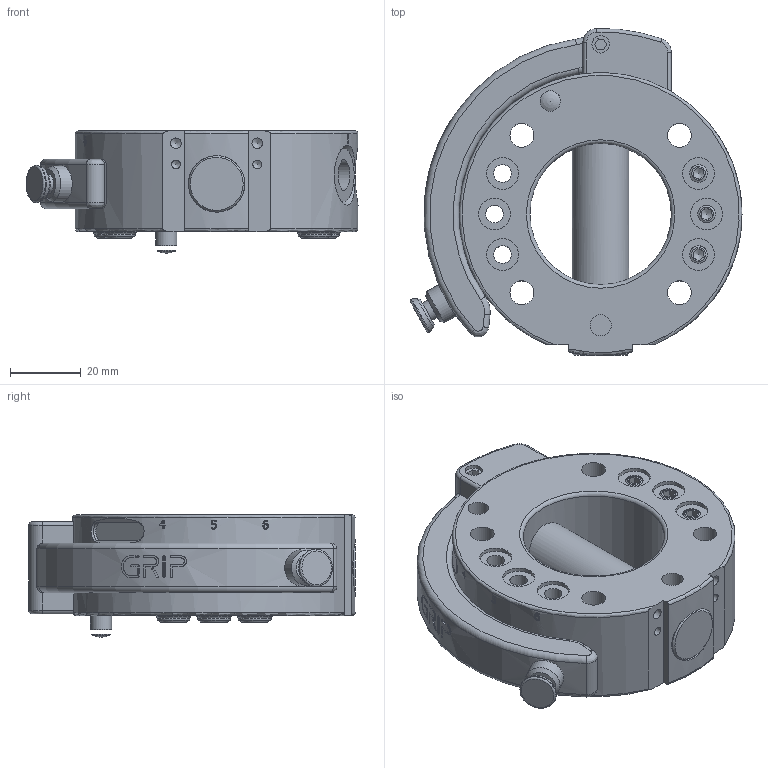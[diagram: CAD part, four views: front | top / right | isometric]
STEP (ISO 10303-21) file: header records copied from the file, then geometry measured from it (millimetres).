
FILE_DESCRIPTION(/* description */ (''),/* implementation_level */ '2;1');
FILE_NAME(/* name */ 'G-SHS080-O-K063.stp',/* time_stamp */ '2024-05-29T09:51:53+02:00',/* author */ ('ysplieth'),/* organization */ (''),/* preprocessor_version */ 'ST-DEVELOPER v20',/* originating_system */ 'Autodesk Inventor 2024',/* authorisation */ '');
FILE_SCHEMA (('AUTOMOTIVE_DESIGN { 1 0 10303 214 3 1 1 }'));
Length unit declared in the file: millimetre
Products named in the file (1): Bauteil9
Bounding box: 93.93 x 92.49 x 34.6 mm (x, y, z)
Volume: 123289.1 mm3; surface area: 34463.9 mm2
Topology: 1 solids, 7 shells, 463 faces, 1143 edges, 749 vertices
Faces by surface type: plane 171, cylinder 136, bspline 67, cone 44, torus 43, sphere 2
Full cylindrical faces by diameter (mm): 0.597 x1, 2.5 x2, 3 x2, 3.3 x2, 4 x4, 4.917 x4, 5 x12, 5.2 x6, 5.58 x1, 5.8 x1, 6 x2, 6.2 x1, 6.75 x4, 6.8 x1, 7 x1, 8.7 x3, 9 x6, 9.9 x6, 10.1 x1, 10.15 x1, 10.6 x1, 11 x4, 16 x2, 40 x1
Entity records: 33298 total; most frequent: CARTESIAN_POINT 22287, ORIENTED_EDGE 2256, DIRECTION 1977, EDGE_CURVE 1128, AXIS2_PLACEMENT_3D 767, VERTEX_POINT 749, EDGE_LOOP 561, FACE_OUTER_BOUND 463
